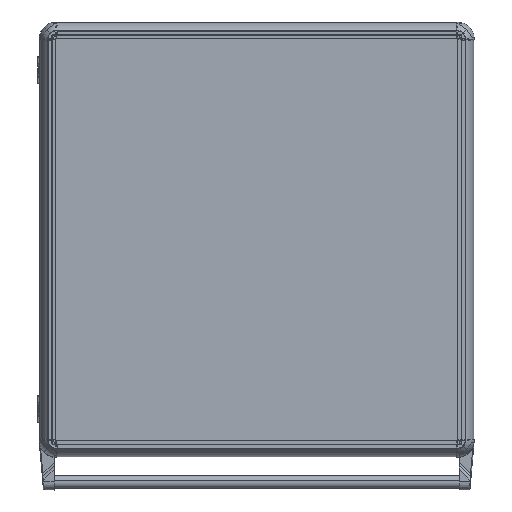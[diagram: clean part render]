
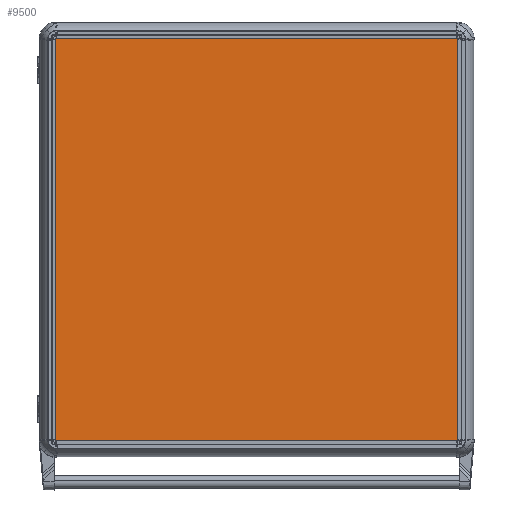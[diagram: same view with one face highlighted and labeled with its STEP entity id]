
A CAD part, top view. The second image highlights one B-rep face of the part: STEP entity #9500.
In plain terms, the highlighted planar face has unit normal (0, 0, 1).
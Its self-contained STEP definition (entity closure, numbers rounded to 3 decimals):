
#9500 = ADVANCED_FACE ( 'NONE', ( #198324 ), #149680, .T. ) ;
#13853 = DIRECTION ( 'NONE',  ( 0., 1., 0. ) ) ;
#28879 = LINE ( 'NONE', #131967, #50576 ) ;
#32343 = VECTOR ( 'NONE', #183006, 1000. ) ;
#41160 = EDGE_LOOP ( 'NONE', ( #156286, #93411, #226176, #103756 ) ) ;
#42692 = EDGE_CURVE ( 'NONE', #172051, #115078, #28879, .T. ) ;
#44931 = LINE ( 'NONE', #167557, #102722 ) ;
#50576 = VECTOR ( 'NONE', #13853, 1000. ) ;
#59514 = AXIS2_PLACEMENT_3D ( 'NONE', #95479, #148548, #182147 ) ;
#76239 = VERTEX_POINT ( 'NONE', #83530 ) ;
#82005 = CARTESIAN_POINT ( 'NONE',  ( -300., -300., 2. ) ) ;
#83530 = CARTESIAN_POINT ( 'NONE',  ( -300., 300., 2. ) ) ;
#89507 = DIRECTION ( 'NONE',  ( 0., -1., 0. ) ) ;
#93411 = ORIENTED_EDGE ( 'NONE', *, *, #185720, .T. ) ;
#95479 = CARTESIAN_POINT ( 'NONE',  ( 0., 0., 2. ) ) ;
#102722 = VECTOR ( 'NONE', #115620, 1000. ) ;
#103492 = LINE ( 'NONE', #156561, #138743 ) ;
#103756 = ORIENTED_EDGE ( 'NONE', *, *, #107428, .T. ) ;
#107428 = EDGE_CURVE ( 'NONE', #200513, #172051, #218762, .T. ) ;
#115078 = VERTEX_POINT ( 'NONE', #193802 ) ;
#115620 = DIRECTION ( 'NONE',  ( -1., 0., 0. ) ) ;
#131967 = CARTESIAN_POINT ( 'NONE',  ( 300., 300., 2. ) ) ;
#138743 = VECTOR ( 'NONE', #89507, 1000. ) ;
#148548 = DIRECTION ( 'NONE',  ( 0., 0., 1. ) ) ;
#149396 = CARTESIAN_POINT ( 'NONE',  ( -300., -300., 2. ) ) ;
#149680 = PLANE ( 'NONE',  #59514 ) ;
#156286 = ORIENTED_EDGE ( 'NONE', *, *, #42692, .T. ) ;
#156561 = CARTESIAN_POINT ( 'NONE',  ( -300., 300., 2. ) ) ;
#162502 = EDGE_CURVE ( 'NONE', #76239, #200513, #103492, .T. ) ;
#167557 = CARTESIAN_POINT ( 'NONE',  ( -300., 300., 2. ) ) ;
#172051 = VERTEX_POINT ( 'NONE', #201168 ) ;
#182147 = DIRECTION ( 'NONE',  ( 1., 0., 0. ) ) ;
#183006 = DIRECTION ( 'NONE',  ( 1., 0., 0. ) ) ;
#185720 = EDGE_CURVE ( 'NONE', #115078, #76239, #44931, .T. ) ;
#193802 = CARTESIAN_POINT ( 'NONE',  ( 300., 300., 2. ) ) ;
#198324 = FACE_OUTER_BOUND ( 'NONE', #41160, .T. ) ;
#200513 = VERTEX_POINT ( 'NONE', #82005 ) ;
#201168 = CARTESIAN_POINT ( 'NONE',  ( 300., -300., 2. ) ) ;
#218762 = LINE ( 'NONE', #149396, #32343 ) ;
#226176 = ORIENTED_EDGE ( 'NONE', *, *, #162502, .T. ) ;
